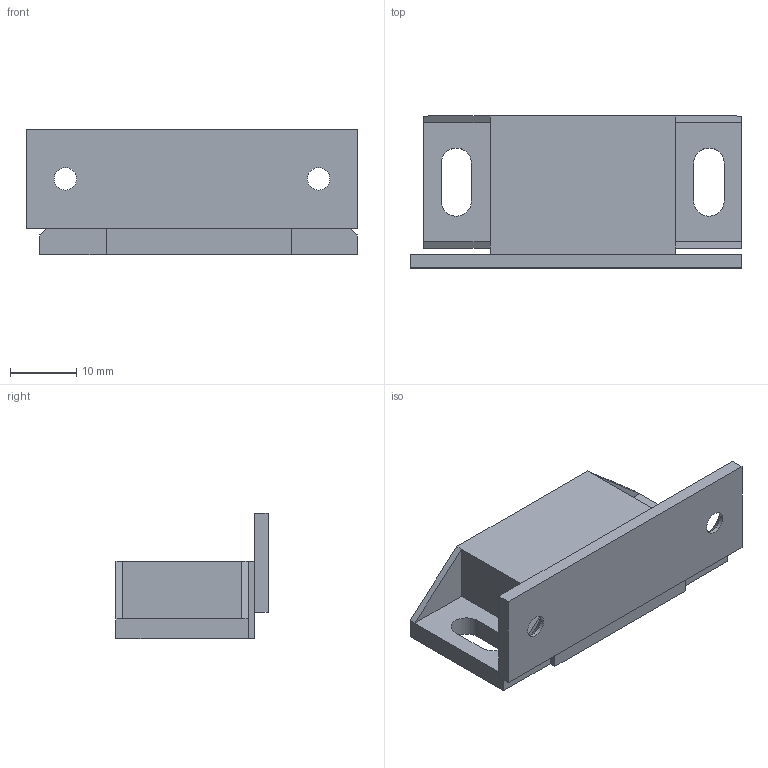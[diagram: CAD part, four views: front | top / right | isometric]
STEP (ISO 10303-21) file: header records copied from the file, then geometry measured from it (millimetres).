
FILE_DESCRIPTION (( 'STEP AP203' ), '1' );
FILE_NAME ('MG2050.STEP', '2024-02-19T13:17:41', ( '' ), ( '' ), 'SwSTEP 2.0', 'SolidWorks 2022', '' );
FILE_SCHEMA (( 'CONFIG_CONTROL_DESIGN' ));
Length unit declared in the file: millimetre
Products named in the file (1): MG2050
Bounding box: 50 x 23 x 19 mm (x, y, z)
Volume: 9431.4 mm3; surface area: 4875.1 mm2
Topology: 1 solids, 1 shells, 44 faces, 110 edges, 68 vertices
Faces by surface type: plane 32, cylinder 8, cone 4
Entity records: 1379 total; most frequent: CARTESIAN_POINT 223, DIRECTION 220, ORIENTED_EDGE 220, EDGE_CURVE 110, LINE 90, VECTOR 90, VERTEX_POINT 68, AXIS2_PLACEMENT_3D 65
